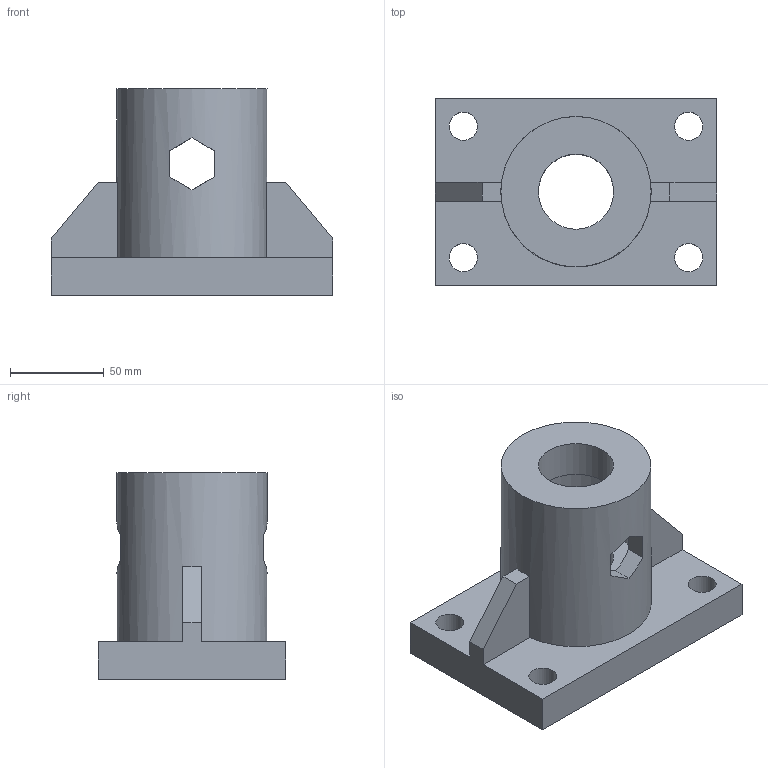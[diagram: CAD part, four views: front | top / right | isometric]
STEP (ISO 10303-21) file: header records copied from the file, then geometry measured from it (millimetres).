
FILE_DESCRIPTION(('TFLEX Exchange Step'),'2;1');
FILE_NAME('X2\041A043E0440043F04430441\X0\ вар 10.stp', '2025-06-24T11:15:27+03:00',('alymo'),('Unknown organisation'),'TFLEX Exchange 2023.0','T-FLEX CAD','Unknown authorisation');
FILE_SCHEMA( ('AUTOMOTIVE_DESIGN { 1 0 10303 214 1 1 1 1 }') );
Length unit declared in the file: millimetre
Products named in the file (1): Nodes
Bounding box: 150 x 100 x 110 mm (x, y, z)
Volume: 547621.6 mm3; surface area: 85460.3 mm2
Topology: 1 solids, 1 shells, 38 faces, 110 edges, 76 vertices
Faces by surface type: plane 30, cylinder 8
Full cylindrical faces by diameter (mm): 15 x4, 40 x2, 60 x1, 80 x1
Entity records: 1334 total; most frequent: DIRECTION 232, CARTESIAN_POINT 225, ORIENTED_EDGE 220, EDGE_CURVE 110, AXIS2_PLACEMENT_3D 83, VERTEX_POINT 76, VECTOR 66, LINE 66
